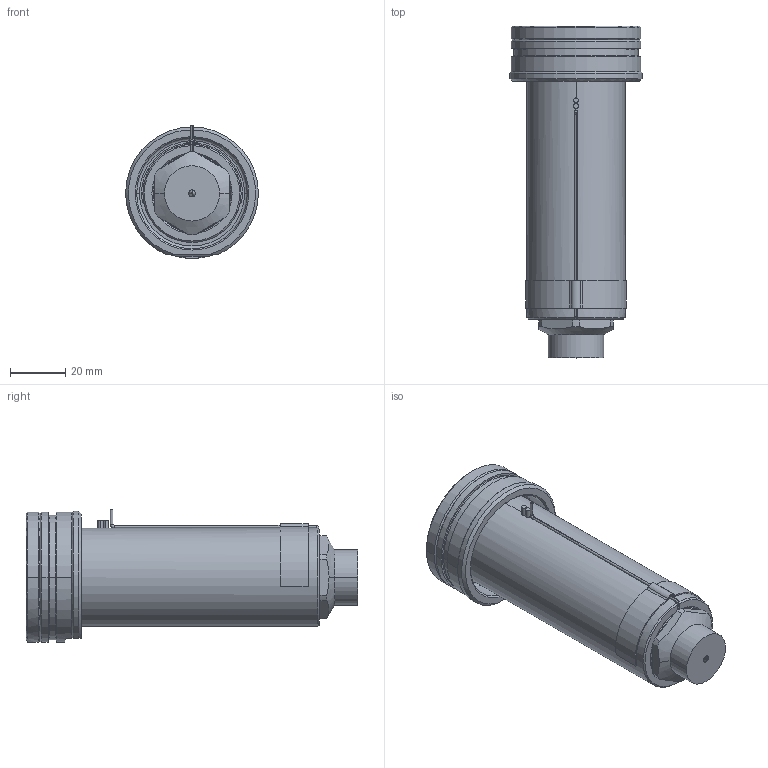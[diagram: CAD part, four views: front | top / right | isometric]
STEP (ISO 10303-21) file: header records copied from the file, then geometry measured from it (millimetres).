
FILE_DESCRIPTION((''),'2;1');
FILE_NAME('EO16_PG-FB_WR_100_SW','2024-02-19T11:43:12',('sundharh'),(''),'CREO PARAMETRIC BY PTC INC, 2023154','CREO PARAMETRIC BY PTC INC, 2023154','');
FILE_SCHEMA(('CONFIG_CONTROL_DESIGN'));
Length unit declared in the file: millimetre
Products named in the file (1): EO16_PG-FB_WR_100_SW
Bounding box: 47.97 x 120 x 48 mm (x, y, z)
Volume: 102327.9 mm3; surface area: 29054.6 mm2
Topology: 1 solids, 1 shells, 205 faces, 538 edges, 331 vertices
Faces by surface type: cylinder 81, plane 59, cone 41, torus 14, bspline 7, sphere 3
Entity records: 7427 total; most frequent: CARTESIAN_POINT 2277, DIRECTION 1139, ORIENTED_EDGE 1060, EDGE_CURVE 530, AXIS2_PLACEMENT_3D 475, VERTEX_POINT 331, CIRCLE 277, EDGE_LOOP 223
